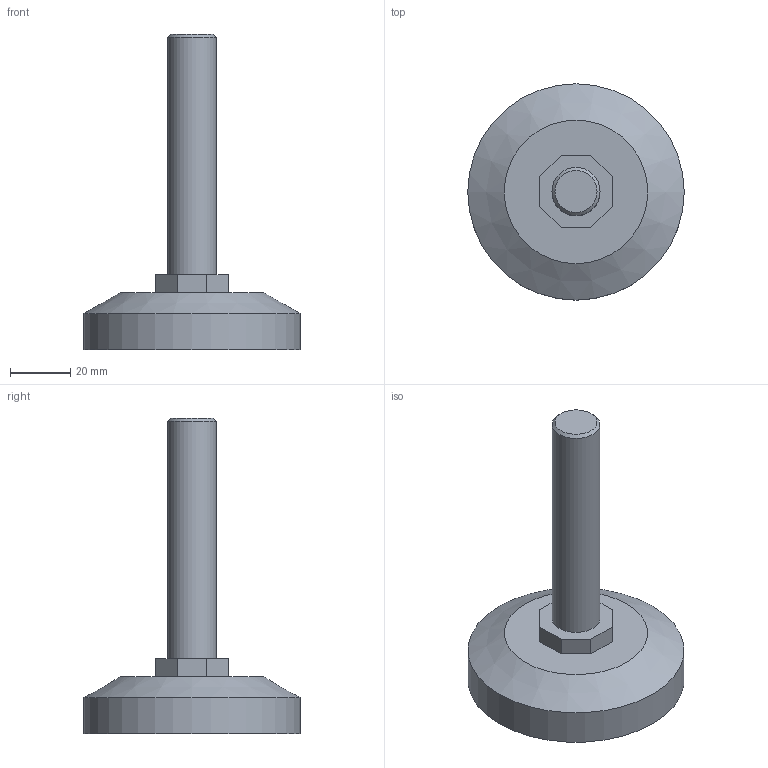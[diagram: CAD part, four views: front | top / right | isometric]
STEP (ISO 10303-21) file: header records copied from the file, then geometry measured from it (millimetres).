
FILE_DESCRIPTION((''),'2;1');
FILE_NAME('X:\Ritarkiv\STEP-Carryline Standarddelar\100-1120.stp','2009-11-09T07:57:45',('marcus'),(''),'Autodesk Inventor 2010','Autodesk Inventor 2010','');
FILE_SCHEMA(('AUTOMOTIVE_DESIGN { 1 0 10303 214 1 1 1 1 }'));
Length unit declared in the file: millimetre
Products named in the file (1): 100-1120
Bounding box: 72 x 72 x 105 mm (x, y, z)
Volume: 87761.4 mm3; surface area: 15677.8 mm2
Topology: 1 solids, 1 shells, 16 faces, 34 edges, 22 vertices
Faces by surface type: plane 12, cone 2, cylinder 2
Full cylindrical faces by diameter (mm): 16 x1, 72 x1
Entity records: 447 total; most frequent: DIRECTION 70, CARTESIAN_POINT 69, ORIENTED_EDGE 60, EDGE_CURVE 30, VECTOR 24, LINE 24, AXIS2_PLACEMENT_3D 23, VERTEX_POINT 22
